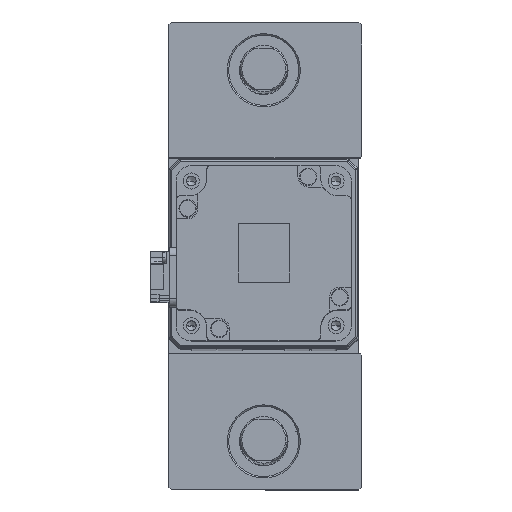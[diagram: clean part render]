
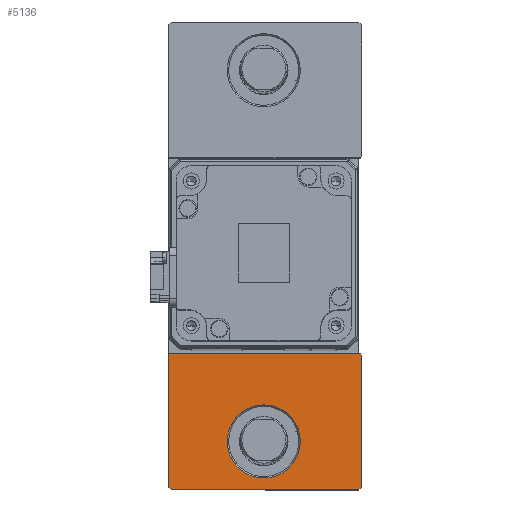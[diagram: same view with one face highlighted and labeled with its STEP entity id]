
A CAD part, top view. The second image highlights one B-rep face of the part: STEP entity #5136.
In plain terms, the highlighted planar face has unit normal (0, 0, 1).
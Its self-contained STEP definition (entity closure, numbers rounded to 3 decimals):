
#316 = CARTESIAN_POINT ( 'NONE',  ( -12.5, -63.5, 25. ) ) ;
#333 = ORIENTED_EDGE ( 'NONE', *, *, #14201, .T. ) ;
#461 = FACE_BOUND ( 'NONE', #35616, .T. ) ;
#468 = LINE ( 'NONE', #23923, #15256 ) ;
#507 = VECTOR ( 'NONE', #25584, 1000. ) ;
#1892 = VERTEX_POINT ( 'NONE', #14286 ) ;
#2307 = ORIENTED_EDGE ( 'NONE', *, *, #33928, .T. ) ;
#3374 = DIRECTION ( 'NONE',  ( 0., 1., 0. ) ) ;
#3927 = CARTESIAN_POINT ( 'NONE',  ( -32.5, -33.5, 25. ) ) ;
#4701 = ORIENTED_EDGE ( 'NONE', *, *, #11440, .T. ) ;
#5136 = ADVANCED_FACE ( 'NONE', ( #461, #15248 ), #30746, .T. ) ;
#6954 = LINE ( 'NONE', #7569, #7892 ) ;
#7188 = VERTEX_POINT ( 'NONE', #3927 ) ;
#7189 = ORIENTED_EDGE ( 'NONE', *, *, #15651, .T. ) ;
#7440 = DIRECTION ( 'NONE',  ( 0., 0., -1. ) ) ;
#7446 = DIRECTION ( 'NONE',  ( 0.707, -0.707, 0. ) ) ;
#7569 = CARTESIAN_POINT ( 'NONE',  ( -32.5, -33.5, 25. ) ) ;
#7892 = VECTOR ( 'NONE', #28132, 1000. ) ;
#8273 = EDGE_LOOP ( 'NONE', ( #11367, #7189, #333, #10443, #4701, #33045, #2307 ) ) ;
#9254 = DIRECTION ( 'NONE',  ( 0.707, 0.707, 0. ) ) ;
#9310 = CARTESIAN_POINT ( 'NONE',  ( 33.5, -33.5, 25. ) ) ;
#10249 = EDGE_CURVE ( 'NONE', #7188, #16974, #25028, .T. ) ;
#10267 = DIRECTION ( 'NONE',  ( 1., 0., 0. ) ) ;
#10443 = ORIENTED_EDGE ( 'NONE', *, *, #13463, .T. ) ;
#11367 = ORIENTED_EDGE ( 'NONE', *, *, #15892, .T. ) ;
#11440 = EDGE_CURVE ( 'NONE', #35014, #7188, #6954, .T. ) ;
#11727 = EDGE_CURVE ( 'NONE', #18303, #14770, #13340, .T. ) ;
#13340 = CIRCLE ( 'NONE', #14605, 12.5 ) ;
#13463 = EDGE_CURVE ( 'NONE', #30557, #35014, #30724, .T. ) ;
#13864 = LINE ( 'NONE', #22238, #37366 ) ;
#14047 = ORIENTED_EDGE ( 'NONE', *, *, #11727, .T. ) ;
#14201 = EDGE_CURVE ( 'NONE', #30586, #30557, #36172, .T. ) ;
#14286 = CARTESIAN_POINT ( 'NONE',  ( 32.5, -80., 25. ) ) ;
#14605 = AXIS2_PLACEMENT_3D ( 'NONE', #14817, #35407, #17777 ) ;
#14770 = VERTEX_POINT ( 'NONE', #316 ) ;
#14817 = CARTESIAN_POINT ( 'NONE',  ( 0., -63.5, 25. ) ) ;
#15015 = VECTOR ( 'NONE', #7446, 1000. ) ;
#15248 = FACE_OUTER_BOUND ( 'NONE', #8273, .T. ) ;
#15256 = VECTOR ( 'NONE', #9254, 1000. ) ;
#15651 = EDGE_CURVE ( 'NONE', #1892, #30586, #468, .T. ) ;
#15892 = EDGE_CURVE ( 'NONE', #34016, #1892, #13864, .T. ) ;
#16303 = DIRECTION ( 'NONE',  ( 1., 0., 0. ) ) ;
#16974 = VERTEX_POINT ( 'NONE', #33957 ) ;
#17777 = DIRECTION ( 'NONE',  ( 1., 0., 0. ) ) ;
#18125 = EDGE_CURVE ( 'NONE', #14770, #18303, #20191, .T. ) ;
#18303 = VERTEX_POINT ( 'NONE', #23234 ) ;
#18909 = CARTESIAN_POINT ( 'NONE',  ( 33., -33.5, 25. ) ) ;
#19379 = AXIS2_PLACEMENT_3D ( 'NONE', #25093, #7440, #28019 ) ;
#19556 = CARTESIAN_POINT ( 'NONE',  ( -0.25, -0.25, 25. ) ) ;
#19851 = AXIS2_PLACEMENT_3D ( 'NONE', #21994, #27929, #10267 ) ;
#20073 = CARTESIAN_POINT ( 'NONE',  ( 33.5, -79., 25. ) ) ;
#20191 = CIRCLE ( 'NONE', #19379, 12.5 ) ;
#21994 = CARTESIAN_POINT ( 'NONE',  ( 0., 0., 25. ) ) ;
#22238 = CARTESIAN_POINT ( 'NONE',  ( -32.5, -80., 25. ) ) ;
#22529 = DIRECTION ( 'NONE',  ( -0.707, 0.707, 0. ) ) ;
#22889 = LINE ( 'NONE', #36866, #15015 ) ;
#22908 = VECTOR ( 'NONE', #22529, 1000. ) ;
#23234 = CARTESIAN_POINT ( 'NONE',  ( 12.5, -63.5, 25. ) ) ;
#23923 = CARTESIAN_POINT ( 'NONE',  ( 56.25, -56.25, 25. ) ) ;
#25028 = LINE ( 'NONE', #31363, #507 ) ;
#25093 = CARTESIAN_POINT ( 'NONE',  ( 0., -63.5, 25. ) ) ;
#25584 = DIRECTION ( 'NONE',  ( 0., -1., 0. ) ) ;
#25890 = CARTESIAN_POINT ( 'NONE',  ( 33.5, -34., 25. ) ) ;
#27929 = DIRECTION ( 'NONE',  ( 0., 0., 1. ) ) ;
#28019 = DIRECTION ( 'NONE',  ( 1., 0., 0. ) ) ;
#28132 = DIRECTION ( 'NONE',  ( -1., 0., 0. ) ) ;
#29296 = ORIENTED_EDGE ( 'NONE', *, *, #18125, .T. ) ;
#30557 = VERTEX_POINT ( 'NONE', #25890 ) ;
#30586 = VERTEX_POINT ( 'NONE', #20073 ) ;
#30724 = LINE ( 'NONE', #19556, #22908 ) ;
#30746 = PLANE ( 'NONE',  #19851 ) ;
#31363 = CARTESIAN_POINT ( 'NONE',  ( -32.5, -33.5, 25. ) ) ;
#33045 = ORIENTED_EDGE ( 'NONE', *, *, #10249, .T. ) ;
#33928 = EDGE_CURVE ( 'NONE', #16974, #34016, #22889, .T. ) ;
#33957 = CARTESIAN_POINT ( 'NONE',  ( -32.5, -79., 25. ) ) ;
#34016 = VERTEX_POINT ( 'NONE', #34176 ) ;
#34176 = CARTESIAN_POINT ( 'NONE',  ( -31.5, -80., 25. ) ) ;
#35014 = VERTEX_POINT ( 'NONE', #18909 ) ;
#35407 = DIRECTION ( 'NONE',  ( 0., 0., -1. ) ) ;
#35616 = EDGE_LOOP ( 'NONE', ( #14047, #29296 ) ) ;
#36172 = LINE ( 'NONE', #9310, #38050 ) ;
#36866 = CARTESIAN_POINT ( 'NONE',  ( -55.75, -55.75, 25. ) ) ;
#37366 = VECTOR ( 'NONE', #16303, 1000. ) ;
#38050 = VECTOR ( 'NONE', #3374, 1000. ) ;
